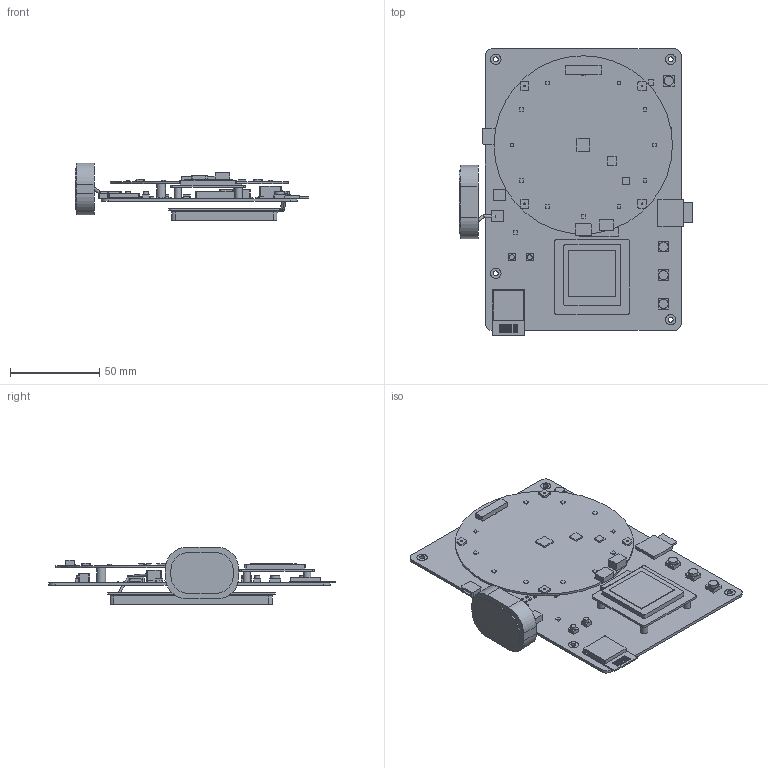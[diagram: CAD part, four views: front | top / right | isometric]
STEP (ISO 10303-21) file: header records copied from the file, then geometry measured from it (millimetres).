
FILE_DESCRIPTION(('Open CASCADE Model'),'2;1');
FILE_NAME('Open CASCADE Shape Model','2026-09-22T14:49:17',('Author'),( 'Open CASCADE'),'Open CASCADE STEP processor 7.9','Open CASCADE 7.9' ,'Unknown');
FILE_SCHEMA(('AUTOMOTIVE_DESIGN { 1 0 10303 214 1 1 1 1 }'));
Length unit declared in the file: millimetre
Products named in the file (135): Fovea_B0_UNROUTED_PLACEMENT_STUDY; main_pcb_110x158; mount_ring_1; mount_ring_2; mount_ring_3; mount_ring_4; audio_array_100mm; MIC_1; mic_port_1; MIC_2; mic_port_2; MIC_3; mic_port_3; MIC_4; mic_port_4; XVF3800_processor; audio_codec; audio_amp; array_service_usb; array_speaker_socket; array_logic_socket; array_led_1; array_led_2; array_led_3; array_led_4; array_led_5; array_led_6; array_led_7; array_led_8; array_led_9; array_led_10; array_led_11; array_led_12; array_support_1; array_support_2; array_support_3; array_support_4; display_carrier; display_bezel; display_glass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
Assembly tree (134 placements, depth 2):
  Fovea_B0_UNROUTED_PLACEMENT_STUDY
    main_pcb_110x158
    mount_ring_1
    mount_ring_2
    mount_ring_3
    mount_ring_4
    audio_array_100mm
    MIC_1
    mic_port_1
    MIC_2
    mic_port_2
    MIC_3
    mic_port_3
    MIC_4
    mic_port_4
    XVF3800_processor
    audio_codec
    audio_amp
    array_service_usb
    array_speaker_socket
    array_logic_socket
    array_led_1
    array_led_2
    array_led_3
    array_led_4
    array_led_5
    array_led_6
    array_led_7
    array_led_8
    array_led_9
    array_led_10
    array_led_11
    array_led_12
    array_support_1
    array_support_2
    array_support_3
    array_support_4
    display_carrier
    display_bezel
    display_glass
    display_support_1
    display_support_2
    display_support_3
    display_support_4
    ESP32_module
    ESP32_shield
    antenna_mark_0
    antenna_mark_1
    antenna_mark_2
    antenna_mark_3
    antenna_mark_4
    U1_charger
    U2_USB_CC
    U3_inverter
    U4_OR_gate
    U12_suspend_inverter
    Q1_suspend_level_shift
    U5_power_controller
    U6_load_switch
    U7_3V3
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Bounding box: 131.1 x 160.75 x 32.35 mm (x, y, z)
Volume: 91758.4 mm3; surface area: 106382.8 mm2
Topology: 134 solids, 134 shells, 835 faces, 1695 edges, 1130 vertices
Faces by surface type: plane 690, cylinder 145
Full cylindrical faces by diameter (mm): 0.8 x4, 0.9 x4, 1.3 x6, 1.5 x2, 2.8 x10, 4 x4, 5 x4, 5.2 x4, 5.8 x4, 100 x1
Entity records: 47330 total; most frequent: CARTESIAN_POINT 7957, DIRECTION 7173, LINE 4489, VECTOR 4489, ORIENTED_EDGE 3390, PCURVE 3390, DEFINITIONAL_REPRESENTATION 3390, EDGE_CURVE 1695
